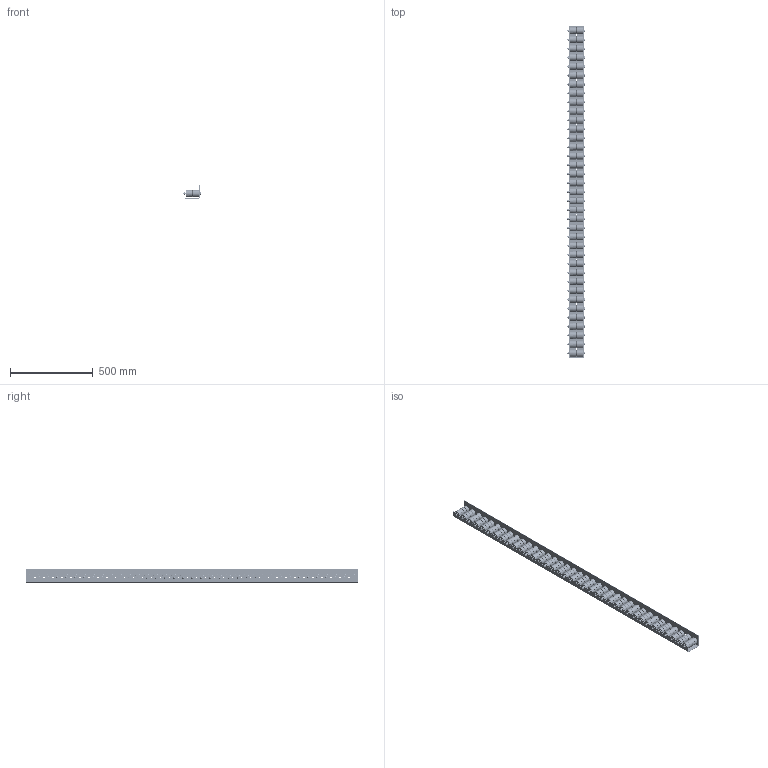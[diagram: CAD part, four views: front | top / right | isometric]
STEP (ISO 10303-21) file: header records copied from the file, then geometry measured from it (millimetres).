
FILE_DESCRIPTION(/* description */ ('Unknown'),/* implementation_level */ '2;1');
FILE_NAME(/* name */ '681L',/* time_stamp */ '2021-05-07T09:48:01+02:00',/* author */ ('Unknown'),/* organization */ ('Unknown'),/* preprocessor_version */ 'ST-DEVELOPER v16.7',/* originating_system */ 'Solid Edge',/* authorisation */ 'Unknown');
FILE_SCHEMA (('TECHNICAL_DATA_PACKAGING','AUTOMOTIVE_DESIGN {1 0 10303 214 3 1 1}'));
Length unit declared in the file: millimetre
Products named in the file (5): 1540-10-00_A; 1540-00-02; Nut_DIN_980_M8_v10.50; Bolt_DIN_931_M8x100_14.00; Rolka fi 42
Assembly tree (223 placements, depth 2):
  1540-10-00_A
    1540-00-02
    Nut_DIN_980_M8_v10.50  x37
    Bolt_DIN_931_M8x100_14.00  x37
    Rolka fi 42  x148
Bounding box: 105.3 x 2000 x 80 mm (x, y, z)
Volume: 3957888.5 mm3; surface area: 2097891.5 mm2
Topology: 223 solids, 223 shells, 9677 faces, 25629 edges, 16916 vertices
Faces by surface type: plane 7336, cylinder 1342, cone 555, torus 444
Full cylindrical faces by diameter (mm): 6.466 x37, 6.647 x37, 6.697 x37, 8 x74, 8.2 x154, 8.3 x148, 8.4 x37, 11.63 x37, 12.5 x37, 14 x296, 30 x148, 32 x148, 42 x148
Entity records: 10727 total; most frequent: DIRECTION 1912, CARTESIAN_POINT 1655, ORIENTED_EDGE 1124, AXIS2_PLACEMENT_3D 893, EDGE_LOOP 766, FACE_BOUND 766, EDGE_CURVE 562, VERTEX_POINT 486
